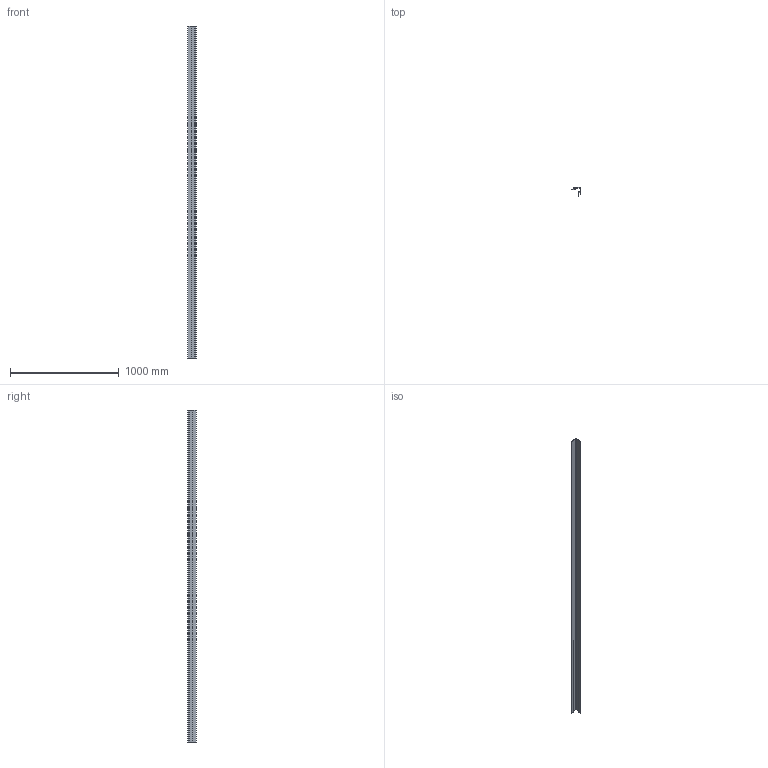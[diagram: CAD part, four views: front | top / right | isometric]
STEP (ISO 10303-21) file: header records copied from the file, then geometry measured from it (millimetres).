
FILE_DESCRIPTION (( 'STEP AP203' ), '1' );
FILE_NAME ('M21F.STEP', '2018-06-18T19:59:22', ( 'Michael Moliner' ), ( '' ), 'SwSTEP 2.0', 'SolidWorks 2018', '' );
FILE_SCHEMA (( 'CONFIG_CONTROL_DESIGN' ));
Length unit declared in the file: inch
Products named in the file (2): M21F
Bounding box: 79.38 x 79.38 x 3048 mm (x, y, z)
Volume: 419291.9 mm3; surface area: 1654127.4 mm2
Topology: 1 solids, 1 shells, 36 faces, 102 edges, 68 vertices
Faces by surface type: plane 20, cylinder 16
Entity records: 1335 total; most frequent: DIRECTION 210, CARTESIAN_POINT 208, ORIENTED_EDGE 204, EDGE_CURVE 102, VECTOR 70, AXIS2_PLACEMENT_3D 70, LINE 70, VERTEX_POINT 68
